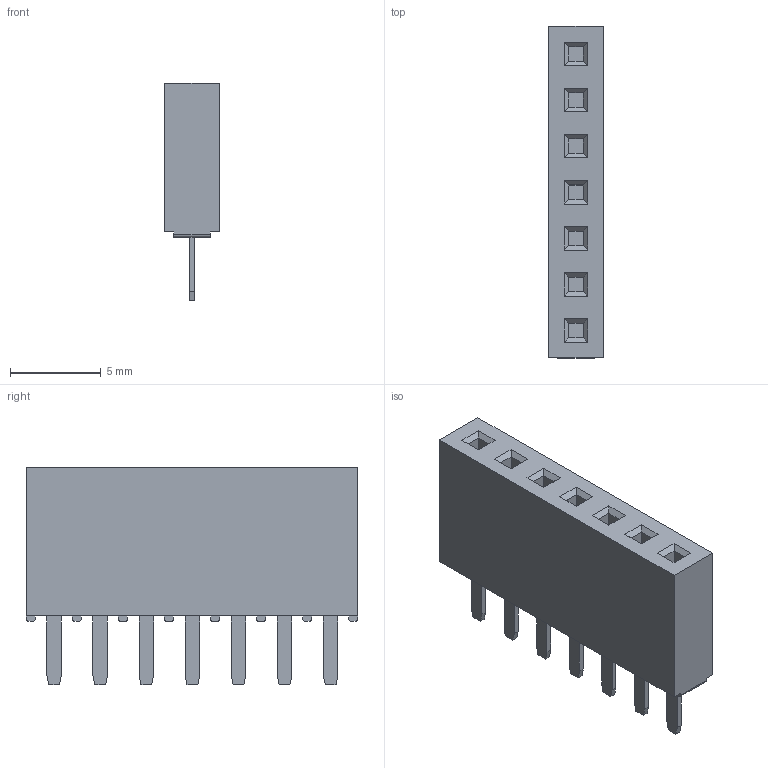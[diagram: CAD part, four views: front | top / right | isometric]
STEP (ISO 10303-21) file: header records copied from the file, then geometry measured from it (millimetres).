
FILE_DESCRIPTION(/* description */ (''),/* implementation_level */ '2;1');
FILE_NAME(/* name */ '960107-6303-XX',/* time_stamp */ '2007-06-18T07:49:31+02:00',/* author */ (''),/* organization */ (''),/* preprocessor_version */ 'ST-DEVELOPER v9',/* originating_system */ 'UGS - NX 4.0',/* authorisation */ '');
FILE_SCHEMA (('AUTOMOTIVE_DESIGN { 1 0 10303 214 1 1 1 1 }'));
Length unit declared in the file: millimetre
Products named in the file (1): 960107-6303-XX
Bounding box: 3 x 18.28 x 12 mm (x, y, z)
Volume: 441.7 mm3; surface area: 601.7 mm2
Topology: 1 solids, 1 shells, 172 faces, 422 edges, 272 vertices
Faces by surface type: plane 156, cylinder 16
Entity records: 4978 total; most frequent: CARTESIAN_POINT 867, ORIENTED_EDGE 844, DIRECTION 800, EDGE_CURVE 422, LINE 390, VECTOR 390, VERTEX_POINT 272, AXIS2_PLACEMENT_3D 205
